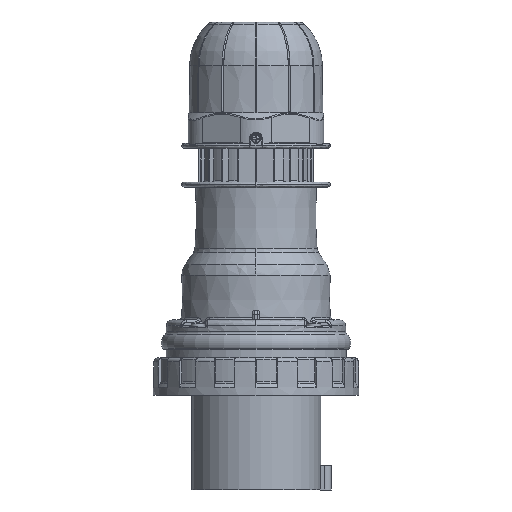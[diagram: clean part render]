
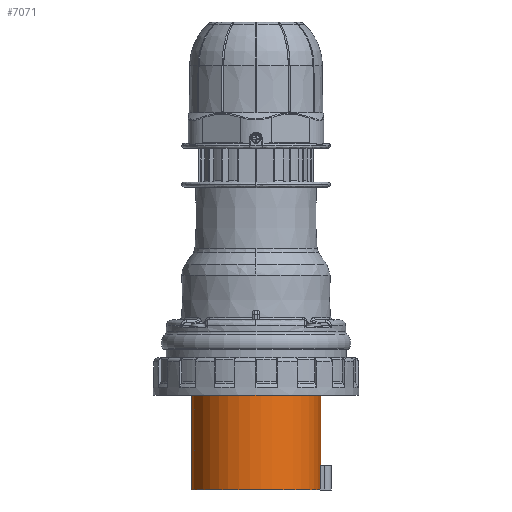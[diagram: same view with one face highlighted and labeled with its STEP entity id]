
A CAD part, left-side view. The second image highlights one B-rep face of the part: STEP entity #7071.
In plain terms, the highlighted cylindrical face has radius 40.5 mm (diameter 81 mm), a full revolution.
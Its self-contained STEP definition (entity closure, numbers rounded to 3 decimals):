
#301=FACE_BOUND('',#8278,.T.);
#302=FACE_BOUND('',#8279,.T.);
#990=CYLINDRICAL_SURFACE('',#15460,40.5);
#1854=LINE('',#18979,#2400);
#1855=LINE('',#18984,#2401);
#1856=LINE('',#18987,#2402);
#1857=LINE('',#18991,#2403);
#2400=VECTOR('',#16468,1.);
#2401=VECTOR('',#16471,1.);
#2402=VECTOR('',#16474,1.);
#2403=VECTOR('',#16477,1.);
#7071=ADVANCED_FACE('',(#301,#302),#990,.T.);
#8278=EDGE_LOOP('',(#8960,#8961,#8962,#8963));
#8279=EDGE_LOOP('',(#8964,#8965,#8966,#8967));
#8960=ORIENTED_EDGE('',*,*,#13089,.T.);
#8961=ORIENTED_EDGE('',*,*,#13090,.T.);
#8962=ORIENTED_EDGE('',*,*,#13091,.T.);
#8963=ORIENTED_EDGE('',*,*,#13092,.T.);
#8964=ORIENTED_EDGE('',*,*,#13085,.T.);
#8965=ORIENTED_EDGE('',*,*,#13093,.F.);
#8966=ORIENTED_EDGE('',*,*,#13094,.T.);
#8967=ORIENTED_EDGE('',*,*,#13095,.F.);
#11728=VERTEX_POINT('',#18969);
#11730=VERTEX_POINT('',#18972);
#11733=VERTEX_POINT('',#18980);
#11734=VERTEX_POINT('',#18981);
#11735=VERTEX_POINT('',#18983);
#11736=VERTEX_POINT('',#18985);
#11737=VERTEX_POINT('',#18988);
#11738=VERTEX_POINT('',#18990);
#13085=EDGE_CURVE('',#11730,#11728,#14896,.T.);
#13089=EDGE_CURVE('',#11733,#11734,#1854,.T.);
#13090=EDGE_CURVE('',#11734,#11735,#14899,.T.);
#13091=EDGE_CURVE('',#11735,#11736,#1855,.T.);
#13092=EDGE_CURVE('',#11736,#11733,#14900,.T.);
#13093=EDGE_CURVE('',#11737,#11728,#1856,.T.);
#13094=EDGE_CURVE('',#11737,#11738,#14901,.T.);
#13095=EDGE_CURVE('',#11730,#11738,#1857,.T.);
#14896=CIRCLE('',#15453,40.5);
#14899=CIRCLE('',#15457,40.5);
#14900=CIRCLE('',#15458,40.5);
#14901=CIRCLE('',#15459,40.5);
#15453=AXIS2_PLACEMENT_3D('',#18971,#16459,#16460);
#15457=AXIS2_PLACEMENT_3D('',#18982,#16469,#16470);
#15458=AXIS2_PLACEMENT_3D('',#18986,#16472,#16473);
#15459=AXIS2_PLACEMENT_3D('',#18989,#16475,#16476);
#15460=AXIS2_PLACEMENT_3D('',#18992,#16478,#16479);
#16459=DIRECTION('',(0.,0.,1.));
#16460=DIRECTION('',(-1.,0.,0.));
#16468=DIRECTION('',(0.,0.,-1.));
#16469=DIRECTION('',(0.,0.,-1.));
#16470=DIRECTION('',(-1.,0.,0.));
#16471=DIRECTION('',(0.,0.,1.));
#16472=DIRECTION('',(0.,0.,-1.));
#16473=DIRECTION('',(-1.,0.,0.));
#16474=DIRECTION('',(0.,0.,-1.));
#16475=DIRECTION('',(0.,0.,1.));
#16476=DIRECTION('',(-1.,0.,0.));
#16477=DIRECTION('',(0.,0.,1.));
#16478=DIRECTION('',(0.,0.,1.));
#16479=DIRECTION('',(1.,0.,0.));
#18969=CARTESIAN_POINT('',(-11.519,-24.656,-279.7));
#18971=CARTESIAN_POINT('',(-7.619,15.656,-279.7));
#18972=CARTESIAN_POINT('',(-3.719,-24.656,-279.7));
#18979=CARTESIAN_POINT('',(-11.519,-24.656,-279.7));
#18980=CARTESIAN_POINT('',(-11.519,-24.656,-208.7));
#18981=CARTESIAN_POINT('',(-11.519,-24.656,-209.2));
#18982=CARTESIAN_POINT('',(-7.619,15.656,-209.2));
#18983=CARTESIAN_POINT('',(-3.719,-24.656,-209.2));
#18984=CARTESIAN_POINT('',(-3.719,-24.656,-279.7));
#18985=CARTESIAN_POINT('',(-3.719,-24.656,-208.7));
#18986=CARTESIAN_POINT('',(-7.619,15.656,-208.7));
#18987=CARTESIAN_POINT('',(-11.519,-24.656,-264.2));
#18988=CARTESIAN_POINT('',(-11.519,-24.656,-264.2));
#18989=CARTESIAN_POINT('',(-7.619,15.656,-264.2));
#18990=CARTESIAN_POINT('',(-3.719,-24.656,-264.2));
#18991=CARTESIAN_POINT('',(-3.719,-24.656,-279.7));
#18992=CARTESIAN_POINT('',(-7.619,15.656,-279.7));
